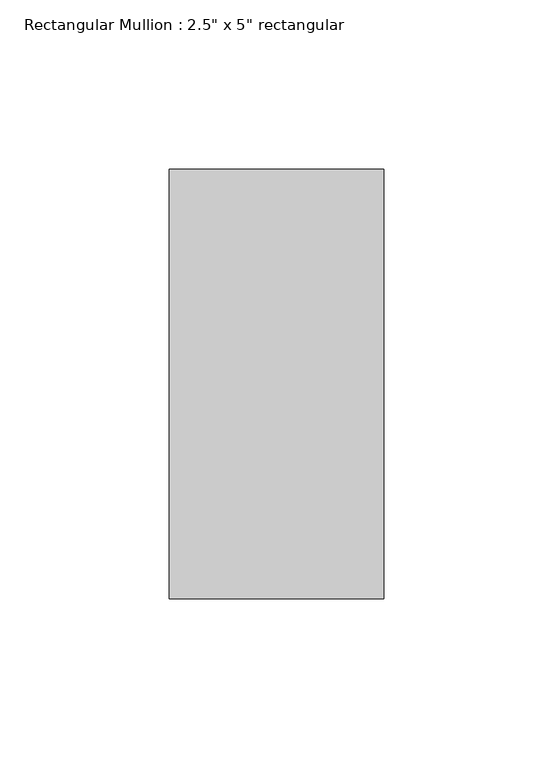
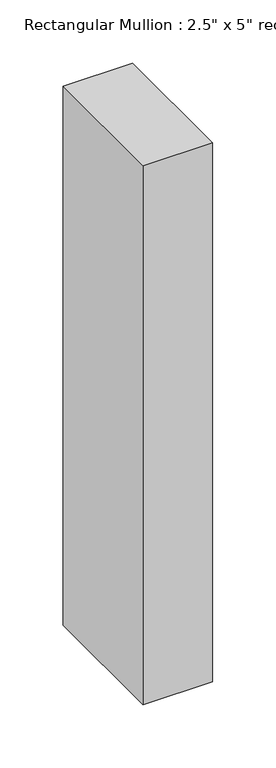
"""IFC4 building model written with IfcOpenShell, lengths in millimetres: member geometry."""

from ifc_helpers import new_model, si_unit, frame, origin, place, context, project, spatial, polyline, outline, extrude, source, transform, mapped, element, save


def member_3bb60550(model_context):
    return source(origin(), model_context, "Body", "SweptSolid", [
        extrude(outline(polyline([(0.0, 50.8), (0.0, -76.2), (-63.5, -76.2), (-63.5, 50.8), (0.0, 50.8)])), frame((0.0, 0.0, -520.7), z_axis=(0.0, 0.0, 1.0), x_axis=(1.0, 0.0, 0.0)), (0.0, 0.0, 1.0), 520.7),
    ])


if __name__ == "__main__":
    model = new_model("IFC4")
    model_context = context("Model", 3, world=origin())
    ifc_project = project(units=[si_unit("LENGTHUNIT", "METRE", prefix="MILLI")], contexts=[model_context])
    site = spatial("IfcSite", under=ifc_project)
    building = spatial("IfcBuilding", under=site)
    placement = place(None, origin())
    member_shape = member_3bb60550(model_context)
    element("IfcMember", 1, ObjectType="Rectangular Mullion : 2.5\" x 5\" rectangular", at=placement, inside=building, context=model_context, shape_type="MappedRepresentation", body=[
        mapped(member_shape, transform((0.0, 0.0, 0.0), x_axis=(1.0, 0.0, 0.0), y_axis=(0.0, 1.0, 0.0), z_axis=(0.0, 0.0, 1.0))),
    ])
    save(model, "model.ifc")
